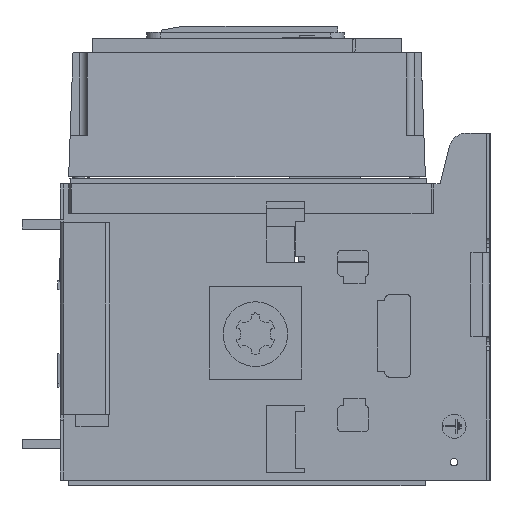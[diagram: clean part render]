
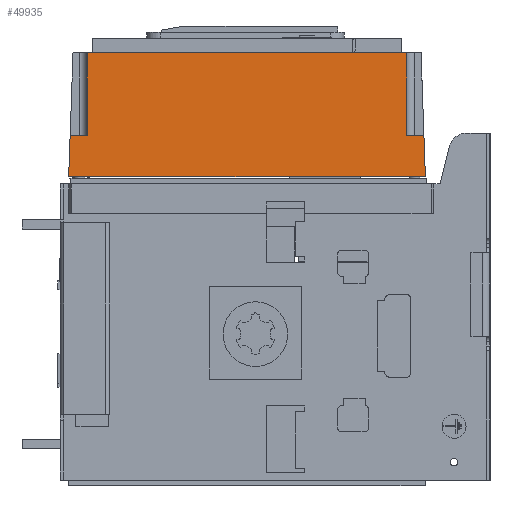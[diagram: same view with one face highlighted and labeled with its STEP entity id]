
A CAD part, left-side view. The second image highlights one B-rep face of the part: STEP entity #49935.
In plain terms, the highlighted planar face has unit normal (-0.999, 0, 0.035).
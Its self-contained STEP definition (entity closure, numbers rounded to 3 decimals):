
#12068=DIRECTION('',(0.,1.,0.));
#12069=VECTOR('',#12068,267.);
#12070=CARTESIAN_POINT('',(25.614,69.5,361.5));
#12071=LINE('',#12070,#12069);
#14203=DIRECTION('',(0.,1.,0.));
#14204=VECTOR('',#14203,14.295);
#14205=CARTESIAN_POINT('',(23.205,55.205,292.5));
#14206=LINE('',#14205,#14204);
#14222=DIRECTION('',(0.,1.,0.));
#14223=VECTOR('',#14222,298.);
#14224=CARTESIAN_POINT('',(22.,54.,258.));
#14225=LINE('',#14224,#14223);
#14226=DIRECTION('',(0.035,-0.035,0.999));
#14227=VECTOR('',#14226,34.542);
#14228=CARTESIAN_POINT('',(22.,352.,258.));
#14229=LINE('',#14228,#14227);
#14230=DIRECTION('',(-0.035,-0.035,-0.999));
#14231=VECTOR('',#14230,34.542);
#14232=CARTESIAN_POINT('',(23.205,55.205,292.5));
#14233=LINE('',#14232,#14231);
#14234=DIRECTION('',(0.,1.,0.));
#14235=VECTOR('',#14234,14.295);
#14236=CARTESIAN_POINT('',(23.205,336.5,292.5));
#14237=LINE('',#14236,#14235);
#14277=DIRECTION('',(-0.035,0.,-0.999));
#14278=VECTOR('',#14277,69.042);
#14279=CARTESIAN_POINT('',(25.614,336.5,361.5));
#14280=LINE('',#14279,#14278);
#14303=DIRECTION('',(0.035,0.,0.999));
#14304=VECTOR('',#14303,69.042);
#14305=CARTESIAN_POINT('',(23.205,69.5,292.5));
#14306=LINE('',#14305,#14304);
#16933=CARTESIAN_POINT('',(22.,352.,258.));
#16935=VERTEX_POINT('',#16933);
#16937=CARTESIAN_POINT('',(22.,54.,258.));
#16938=VERTEX_POINT('',#16937);
#17011=CARTESIAN_POINT('',(23.205,350.795,292.5));
#17012=VERTEX_POINT('',#17011);
#17045=CARTESIAN_POINT('',(23.205,55.205,292.5));
#17046=VERTEX_POINT('',#17045);
#17236=CARTESIAN_POINT('',(25.614,69.5,361.5));
#17237=VERTEX_POINT('',#17236);
#17238=CARTESIAN_POINT('',(25.614,336.5,361.5));
#17239=VERTEX_POINT('',#17238);
#17869=CARTESIAN_POINT('',(23.205,69.5,292.5));
#17870=VERTEX_POINT('',#17869);
#17877=CARTESIAN_POINT('',(23.205,336.5,292.5));
#17878=VERTEX_POINT('',#17877);
#49917=CARTESIAN_POINT('',(25.614,352.,361.5));
#49918=DIRECTION('',(0.999,0.,-0.035));
#49919=DIRECTION('',(-0.035,0.,-0.999));
#49920=AXIS2_PLACEMENT_3D('',#49917,#49918,#49919);
#49921=PLANE('',#49920);
#49922=ORIENTED_EDGE('',*,*,#44627,.T.);
#49923=ORIENTED_EDGE('',*,*,#44738,.T.);
#49925=ORIENTED_EDGE('',*,*,#49924,.F.);
#49927=ORIENTED_EDGE('',*,*,#49926,.F.);
#49928=ORIENTED_EDGE('',*,*,#45614,.F.);
#49930=ORIENTED_EDGE('',*,*,#49929,.F.);
#49931=ORIENTED_EDGE('',*,*,#49893,.F.);
#49932=ORIENTED_EDGE('',*,*,#44809,.T.);
#49933=EDGE_LOOP('',(#49922,#49923,#49925,#49927,#49928,#49930,#49931,#49932));
#49934=FACE_OUTER_BOUND('',#49933,.F.);
#44627=EDGE_CURVE('',#16938,#16935,#14225,.T.);
#44738=EDGE_CURVE('',#16935,#17012,#14229,.T.);
#44809=EDGE_CURVE('',#17046,#16938,#14233,.T.);
#45614=EDGE_CURVE('',#17237,#17239,#12071,.T.);
#49893=EDGE_CURVE('',#17046,#17870,#14206,.T.);
#49924=EDGE_CURVE('',#17878,#17012,#14237,.T.);
#49926=EDGE_CURVE('',#17239,#17878,#14280,.T.);
#49929=EDGE_CURVE('',#17870,#17237,#14306,.T.);
#49935=ADVANCED_FACE('',(#49934),#49921,.F.);
